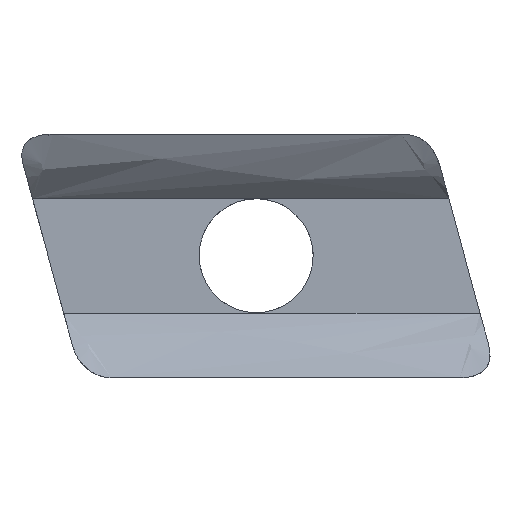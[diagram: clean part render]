
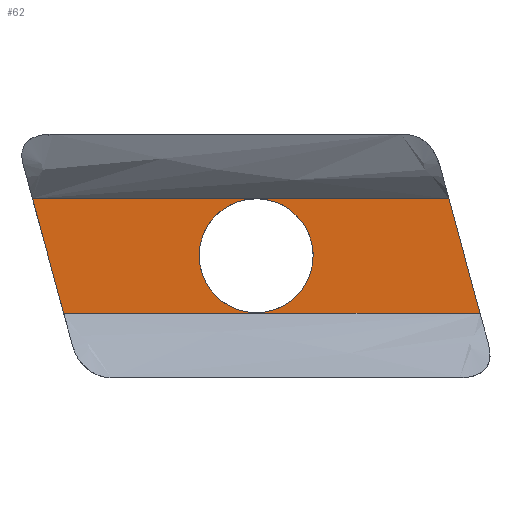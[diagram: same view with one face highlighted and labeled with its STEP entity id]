
A CAD part, top view. The second image highlights one B-rep face of the part: STEP entity #62.
In plain terms, the highlighted planar face has unit normal (0, 0, 1).
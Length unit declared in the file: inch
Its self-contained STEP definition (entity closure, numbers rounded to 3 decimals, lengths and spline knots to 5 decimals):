
#62=ADVANCED_FACE('',(#139,#140),#141,.T.);
#139=FACE_BOUND('',#248,.T.);
#140=FACE_OUTER_BOUND('',#249,.T.);
#141=PLANE('',#250);
#248=EDGE_LOOP('',(#1873,#1874,#1875,#1876));
#249=EDGE_LOOP('',(#1877,#1878,#1879,#1880,#1881));
#250=AXIS2_PLACEMENT_3D('',#1882,#1883,#1884);
#1873=ORIENTED_EDGE('',*,*,#2083,.T.);
#1874=ORIENTED_EDGE('',*,*,#2084,.T.);
#1875=ORIENTED_EDGE('',*,*,#2085,.T.);
#1876=ORIENTED_EDGE('',*,*,#2068,.T.);
#1877=ORIENTED_EDGE('',*,*,#2086,.F.);
#1878=ORIENTED_EDGE('',*,*,#2064,.T.);
#1879=ORIENTED_EDGE('',*,*,#2077,.F.);
#1880=ORIENTED_EDGE('',*,*,#2087,.T.);
#1881=ORIENTED_EDGE('',*,*,#2088,.T.);
#1882=CARTESIAN_POINT('',(-0.14909,0.203,0.0666));
#1883=DIRECTION('',(0.0,0.0,1.0));
#1884=DIRECTION('',(0.0,-1.0,0.0));
#2064=EDGE_CURVE('',#2169,#2176,#2178,.T.);
#2068=EDGE_CURVE('',#2185,#2183,#2186,.T.);
#2077=EDGE_CURVE('',#2199,#2176,#2201,.T.);
#2083=EDGE_CURVE('',#2183,#2209,#2210,.T.);
#2084=EDGE_CURVE('',#2209,#2211,#2212,.T.);
#2085=EDGE_CURVE('',#2211,#2185,#2213,.T.);
#2086=EDGE_CURVE('',#2169,#2214,#2215,.T.);
#2087=EDGE_CURVE('',#2199,#2216,#2217,.T.);
#2088=EDGE_CURVE('',#2216,#2214,#2218,.T.);
#2169=VERTEX_POINT('',#2329);
#2176=VERTEX_POINT('',#2347);
#2178=LINE('',#2354,#2355);
#2183=VERTEX_POINT('',#2371);
#2185=VERTEX_POINT('',#2374);
#2186=B_SPLINE_CURVE_WITH_KNOTS('',3,(#2375,#2376,#2377,#2378),.UNSPECIFIED.,.F.,.F.,(4,4),(-1.0,-0.0),.UNSPECIFIED.);
#2199=VERTEX_POINT('',#2416);
#2201=LINE('',#2421,#2422);
#2209=VERTEX_POINT('',#2443);
#2210=B_SPLINE_CURVE_WITH_KNOTS('',3,(#2444,#2445,#2446,#2447),.UNSPECIFIED.,.F.,.F.,(4,4),(-1.0,-0.0),.UNSPECIFIED.);
#2211=VERTEX_POINT('',#2448);
#2212=B_SPLINE_CURVE_WITH_KNOTS('',3,(#2449,#2450,#2451,#2452),.UNSPECIFIED.,.F.,.F.,(4,4),(-1.0,-0.0),.UNSPECIFIED.);
#2213=B_SPLINE_CURVE_WITH_KNOTS('',3,(#2453,#2454,#2455,#2456),.UNSPECIFIED.,.F.,.F.,(4,4),(-1.0,-0.0),.UNSPECIFIED.);
#2214=VERTEX_POINT('',#2457);
#2215=LINE('',#2458,#2459);
#2216=VERTEX_POINT('',#2460);
#2217=LINE('',#2461,#2462);
#2218=LINE('',#2463,#2464);
#2329=CARTESIAN_POINT('',(0.58847,0.203,0.0666));
#2347=CARTESIAN_POINT('',(0.56238,0.29872,0.0666));
#2354=CARTESIAN_POINT('',(0.5613,0.30268,0.0666));
#2355=VECTOR('',#3028,1.0);
#2371=CARTESIAN_POINT('',(0.33627,0.20351,0.0666));
#2374=CARTESIAN_POINT('',(0.24126,0.2985,0.0666));
#2375=CARTESIAN_POINT('',(0.24126,0.2985,0.0666));
#2376=CARTESIAN_POINT('',(0.29373,0.2985,0.0666));
#2377=CARTESIAN_POINT('',(0.33627,0.25597,0.0666));
#2378=CARTESIAN_POINT('',(0.33627,0.20351,0.0666));
#2416=CARTESIAN_POINT('',(-0.13162,0.29872,0.0666));
#2421=CARTESIAN_POINT('',(-0.14909,0.29872,0.0666));
#2422=VECTOR('',#3032,1.);
#2443=CARTESIAN_POINT('',(0.24126,0.10851,0.0666));
#2444=CARTESIAN_POINT('',(0.33627,0.20351,0.0666));
#2445=CARTESIAN_POINT('',(0.33627,0.15104,0.0666));
#2446=CARTESIAN_POINT('',(0.29373,0.10851,0.0666));
#2447=CARTESIAN_POINT('',(0.24126,0.10851,0.0666));
#2448=CARTESIAN_POINT('',(0.14626,0.20351,0.0666));
#2449=CARTESIAN_POINT('',(0.24126,0.10851,0.0666));
#2450=CARTESIAN_POINT('',(0.1888,0.10851,0.0666));
#2451=CARTESIAN_POINT('',(0.14626,0.15104,0.0666));
#2452=CARTESIAN_POINT('',(0.14626,0.20351,0.0666));
#2453=CARTESIAN_POINT('',(0.14626,0.20351,0.0666));
#2454=CARTESIAN_POINT('',(0.14626,0.25597,0.0666));
#2455=CARTESIAN_POINT('',(0.1888,0.2985,0.0666));
#2456=CARTESIAN_POINT('',(0.24126,0.2985,0.0666));
#2457=CARTESIAN_POINT('',(0.61456,0.10727,0.0666));
#2458=CARTESIAN_POINT('',(0.56298,0.29655,0.0666));
#2459=VECTOR('',#3035,1.0);
#2460=CARTESIAN_POINT('',(-0.07948,0.10727,0.0666));
#2461=CARTESIAN_POINT('',(-0.10705,0.20851,0.0666));
#2462=VECTOR('',#3036,1.0);
#2463=CARTESIAN_POINT('',(-0.14909,0.10727,0.0666));
#2464=VECTOR('',#3037,1.);
#3028=DIRECTION('',(-0.263,0.965,0.0));
#3032=DIRECTION('',(1.0,0.,0.0));
#3035=DIRECTION('',(0.263,-0.965,0.0));
#3036=DIRECTION('',(0.263,-0.965,0.0));
#3037=DIRECTION('',(1.0,0.,0.0));
